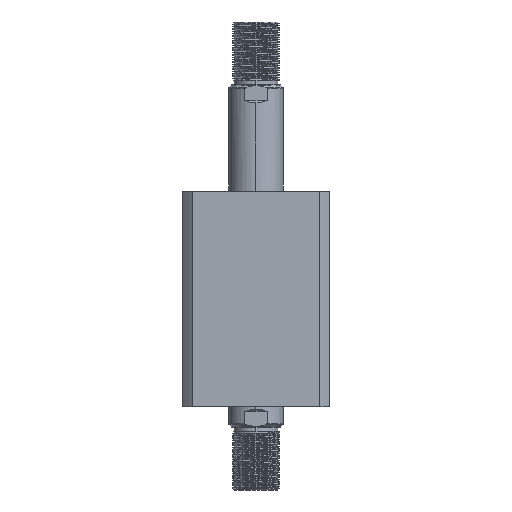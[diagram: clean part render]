
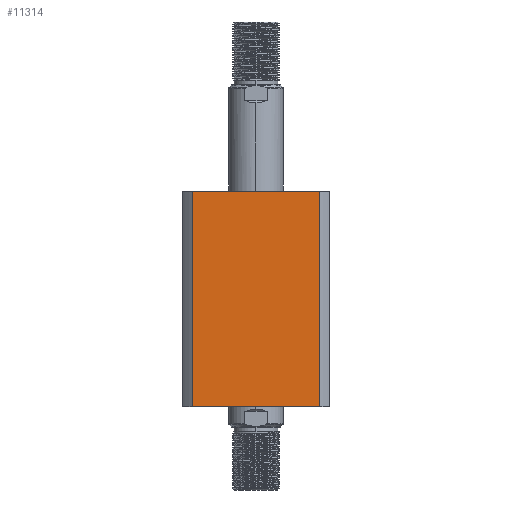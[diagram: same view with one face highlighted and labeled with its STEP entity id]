
A CAD part, left-side view. The second image highlights one B-rep face of the part: STEP entity #11314.
In plain terms, the highlighted planar face has unit normal (-1, 0, 0).
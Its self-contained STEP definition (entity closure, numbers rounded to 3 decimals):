
#63 = ORIENTED_EDGE ( 'NONE', *, *, #1179, .F. ) ;
#73 = DIRECTION ( 'NONE',  ( 0., 0., 1. ) ) ;
#478 = CARTESIAN_POINT ( 'NONE',  ( -47., -40.435, 137. ) ) ;
#553 = CARTESIAN_POINT ( 'NONE',  ( -47., 47., 137. ) ) ;
#722 = ORIENTED_EDGE ( 'NONE', *, *, #7240, .T. ) ;
#1179 = EDGE_CURVE ( 'NONE', #10027, #17184, #16150, .T. ) ;
#1364 = ORIENTED_EDGE ( 'NONE', *, *, #8740, .F. ) ;
#2551 = CARTESIAN_POINT ( 'NONE',  ( -47., 40.435, 300. ) ) ;
#3022 = LINE ( 'NONE', #12536, #26415 ) ;
#3361 = VECTOR ( 'NONE', #27656, 1000. ) ;
#4040 = LINE ( 'NONE', #25517, #3361 ) ;
#4818 = VECTOR ( 'NONE', #73, 1000. ) ;
#4891 = EDGE_LOOP ( 'NONE', ( #1364, #18370, #63, #722 ) ) ;
#6015 = DIRECTION ( 'NONE',  ( 0., -1., 0. ) ) ;
#6947 = DIRECTION ( 'NONE',  ( 0., 1., 0. ) ) ;
#7240 = EDGE_CURVE ( 'NONE', #10027, #11057, #3022, .T. ) ;
#7387 = CARTESIAN_POINT ( 'NONE',  ( -47., 40.435, 137. ) ) ;
#8688 = LINE ( 'NONE', #10154, #19391 ) ;
#8740 = EDGE_CURVE ( 'NONE', #18732, #11057, #4040, .T. ) ;
#10027 = VERTEX_POINT ( 'NONE', #20367 ) ;
#10154 = CARTESIAN_POINT ( 'NONE',  ( -47., 47., 137. ) ) ;
#11057 = VERTEX_POINT ( 'NONE', #19538 ) ;
#11314 = ADVANCED_FACE ( 'NONE', ( #23156 ), #24220, .F. ) ;
#12536 = CARTESIAN_POINT ( 'NONE',  ( -47., 47., 0. ) ) ;
#16150 = LINE ( 'NONE', #2551, #4818 ) ;
#16246 = EDGE_CURVE ( 'NONE', #17184, #18732, #8688, .T. ) ;
#17184 = VERTEX_POINT ( 'NONE', #7387 ) ;
#18370 = ORIENTED_EDGE ( 'NONE', *, *, #16246, .F. ) ;
#18732 = VERTEX_POINT ( 'NONE', #478 ) ;
#19391 = VECTOR ( 'NONE', #25103, 1000. ) ;
#19538 = CARTESIAN_POINT ( 'NONE',  ( -47., -40.435, 0. ) ) ;
#19751 = DIRECTION ( 'NONE',  ( 1., 0., 0. ) ) ;
#20367 = CARTESIAN_POINT ( 'NONE',  ( -47., 40.435, 0. ) ) ;
#23156 = FACE_OUTER_BOUND ( 'NONE', #4891, .T. ) ;
#24220 = PLANE ( 'NONE',  #25612 ) ;
#25103 = DIRECTION ( 'NONE',  ( 0., -1., 0. ) ) ;
#25517 = CARTESIAN_POINT ( 'NONE',  ( -47., -40.435, 300. ) ) ;
#25612 = AXIS2_PLACEMENT_3D ( 'NONE', #553, #19751, #6947 ) ;
#26415 = VECTOR ( 'NONE', #6015, 1000. ) ;
#27656 = DIRECTION ( 'NONE',  ( 0., 0., -1. ) ) ;
